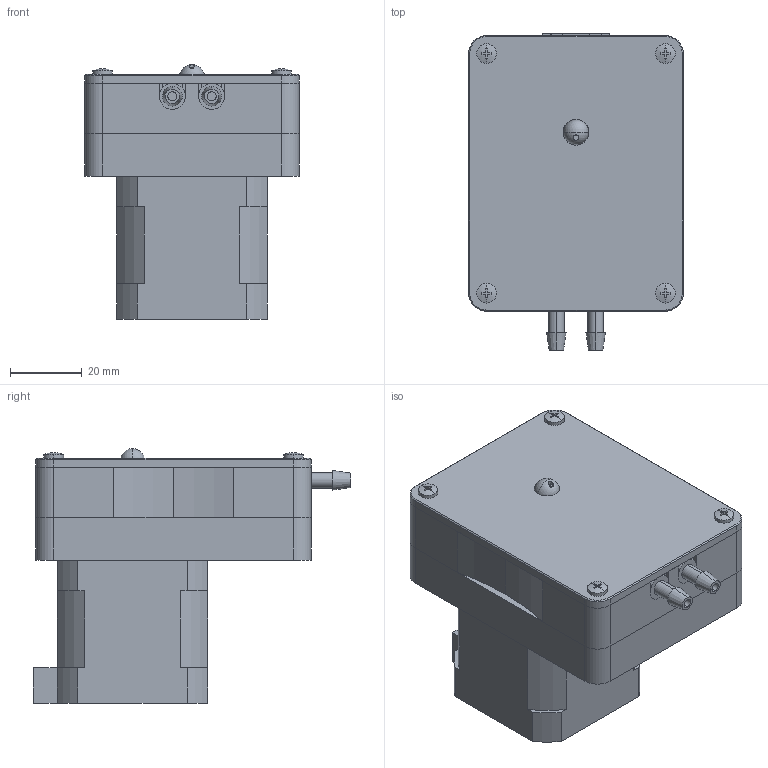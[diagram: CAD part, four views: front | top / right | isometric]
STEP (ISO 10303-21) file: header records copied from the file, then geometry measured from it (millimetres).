
FILE_DESCRIPTION (( 'STEP AP214' ), '1' );
FILE_NAME ('RP-HII04x-200Z-DC24VS.STEP', '2025-03-10T06:52:22', ( '' ), ( '' ), 'SwSTEP 2.0', 'SolidWorks 2024', '' );
FILE_SCHEMA (( 'AUTOMOTIVE_DESIGN' ));
Length unit declared in the file: millimetre
Products named in the file (10): BASE_3 - forWEB; M26x10_Pタイト_CSPBDS2B-ST-TP2_6-10; JOINER_MCS40 - forWEB; S6B-PH-K-S; RP-HII04x-200Z-DC24VS; COVER_2; NKM-17D40A4; ROTOR2 - forWEB; PUMP CASE - forWEB
Assembly tree (13 placements, depth 3):
  RP-HII04x-200Z-DC24VS
    COVER_2
    M26x10_Pタイト_CSPBDS2B-ST-TP2_6-10  x4
    JOINER_MCS40 - forWEB  x2
    BASE_3 - forWEB
    ROTOR2 - forWEB
    PUMP CASE - forWEB
    NKM-17D40A4
      NKM-17D40A4
      S6B-PH-K-S
Bounding box: 60 x 88.7 x 71.2 mm (x, y, z)
Volume: 195200.9 mm3; surface area: 51110.8 mm2
Topology: 12 solids, 12 shells, 547 faces, 1318 edges, 857 vertices
Faces by surface type: plane 279, cylinder 207, cone 25, bspline 14, torus 12, sphere 10
Entity records: 13969 total; most frequent: CARTESIAN_POINT 2581, DIRECTION 2441, ORIENTED_EDGE 2196, EDGE_CURVE 1098, AXIS2_PLACEMENT_3D 901, VERTEX_POINT 715, LINE 639, VECTOR 639
